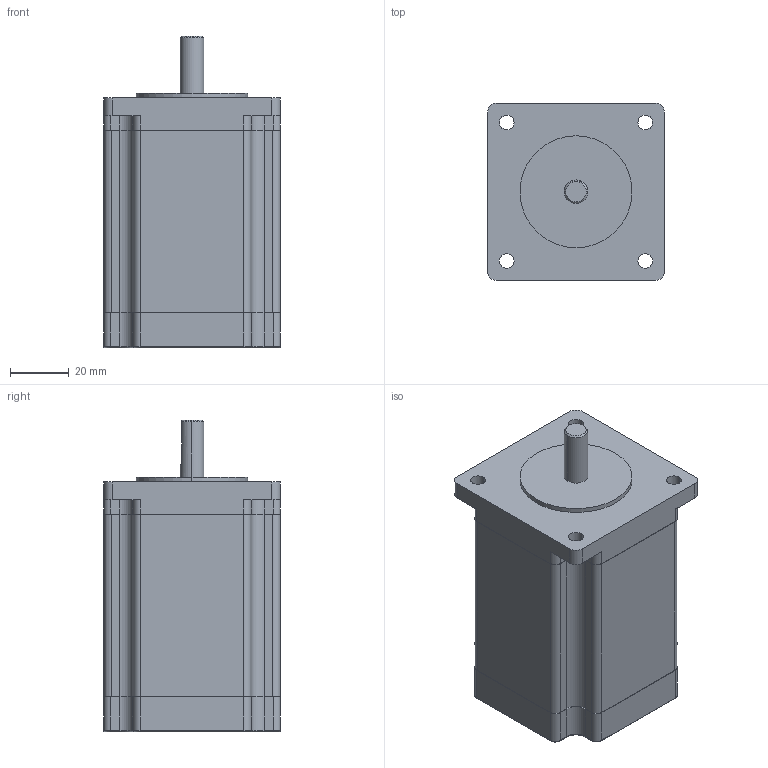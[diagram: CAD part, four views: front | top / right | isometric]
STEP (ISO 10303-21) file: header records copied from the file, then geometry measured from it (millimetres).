
FILE_DESCRIPTION (( 'STEP AP203' ), '1' );
FILE_NAME ('D57CM31-4A MS20.STEP', '2021-04-19T08:06:11', ( 'Owner' ), ( 'Organization' ), 'SwSTEP 2.0', 'SolidWorks 2018', '' );
FILE_SCHEMA (( 'CONFIG_CONTROL_DESIGN' ));
Length unit declared in the file: millimetre
Products named in the file (1): D57CM31-4A MS20
Bounding box: 60.2 x 60.2 x 106 mm (x, y, z)
Volume: 277332.8 mm3; surface area: 27360.6 mm2
Topology: 1 solids, 1 shells, 130 faces, 342 edges, 219 vertices
Faces by surface type: cylinder 66, plane 49, torus 12, cone 3
Entity records: 4150 total; most frequent: DIRECTION 751, CARTESIAN_POINT 714, ORIENTED_EDGE 684, EDGE_CURVE 342, AXIS2_PLACEMENT_3D 280, VERTEX_POINT 219, LINE 191, VECTOR 191
